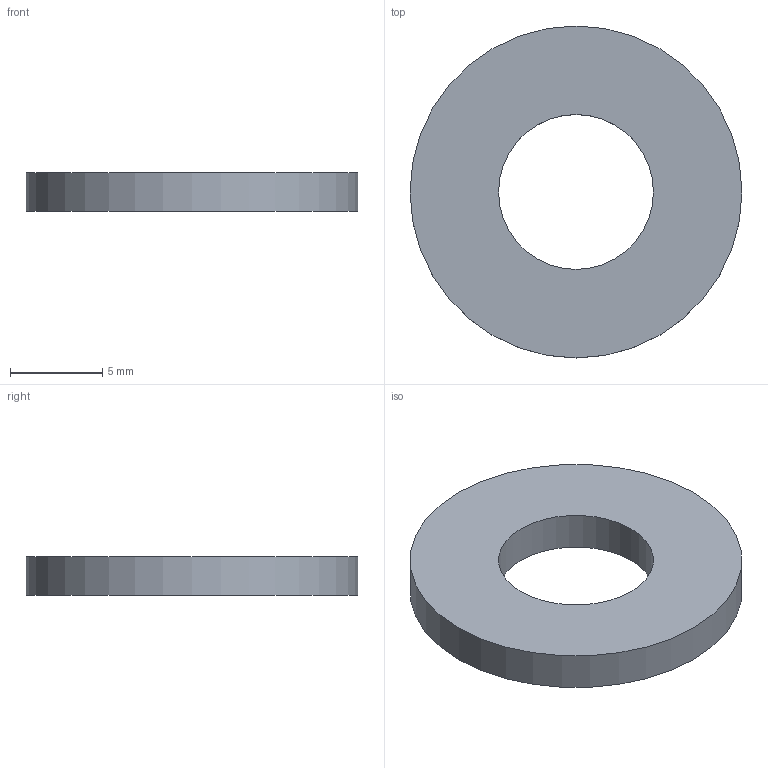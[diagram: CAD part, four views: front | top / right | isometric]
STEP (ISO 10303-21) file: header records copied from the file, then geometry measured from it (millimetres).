
FILE_DESCRIPTION((''),'2;1');
FILE_NAME('C:\Andys Backup Data\WEBSITE\DREAMWEAVER\MiniTec\Products\Screw_And_Nuts\Catalog_Pages\Washers\CAD\Step\21.9908_6 M8 Nylon Washer Black.stp','2016-08-22T12:30:53',('amoles'),(''),'Autodesk Inventor 2012','Autodesk Inventor 2012','');
FILE_SCHEMA(('AUTOMOTIVE_DESIGN { 1 0 10303 214 1 1 1 1 }'));
Length unit declared in the file: millimetre
Products named in the file (1): 21.9908_6 M8 Nylon Washer Black
Bounding box: 18 x 18 x 2.1 mm (x, y, z)
Volume: 418 mm3; surface area: 572.3 mm2
Topology: 1 solids, 1 shells, 4 faces, 6 edges, 4 vertices
Faces by surface type: cylinder 2, plane 2
Full cylindrical faces by diameter (mm): 8.4 x1, 18 x1
Entity records: 114 total; most frequent: DIRECTION 18, CARTESIAN_POINT 13, AXIS2_PLACEMENT_3D 9, ORIENTED_EDGE 8, EDGE_LOOP 8, VERTEX_POINT 4, CIRCLE 4, EDGE_CURVE 4
